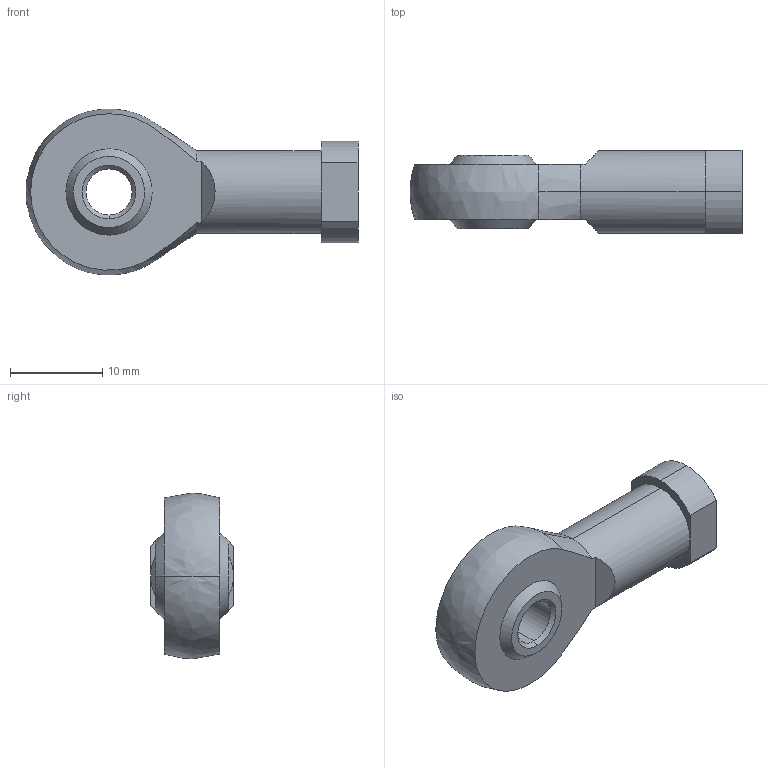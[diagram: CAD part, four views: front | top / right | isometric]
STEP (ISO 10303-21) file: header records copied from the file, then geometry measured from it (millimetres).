
FILE_DESCRIPTION (( 'STEP AP214' ), '1' );
FILE_NAME ('14.STK05.STEP', '2017-10-28T13:07:26', ( '' ), ( '' ), 'SwSTEP 2.0', 'SolidWorks 2016', '' );
FILE_SCHEMA (( 'AUTOMOTIVE_DESIGN' ));
Length unit declared in the file: millimetre
Products named in the file (1): 14.STK05
Bounding box: 36 x 9 x 18 mm (x, y, z)
Volume: 2508.5 mm3; surface area: 1683.7 mm2
Topology: 1 solids, 1 shells, 36 faces, 89 edges, 55 vertices
Faces by surface type: cone 11, plane 11, cylinder 9, bspline 5
Entity records: 1505 total; most frequent: CARTESIAN_POINT 658, ORIENTED_EDGE 170, DIRECTION 166, EDGE_CURVE 85, AXIS2_PLACEMENT_3D 67, VERTEX_POINT 55, EDGE_LOOP 42, FACE_OUTER_BOUND 36
